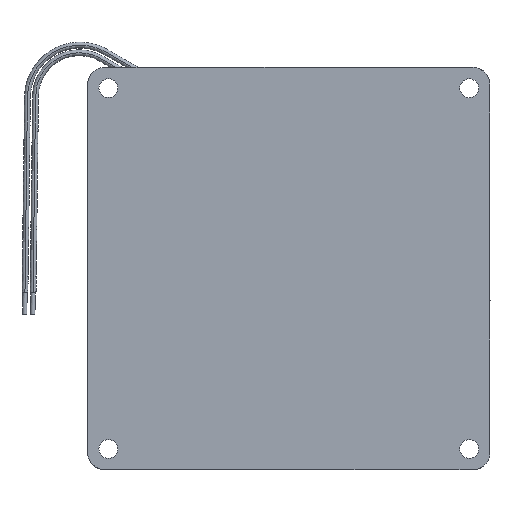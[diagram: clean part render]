
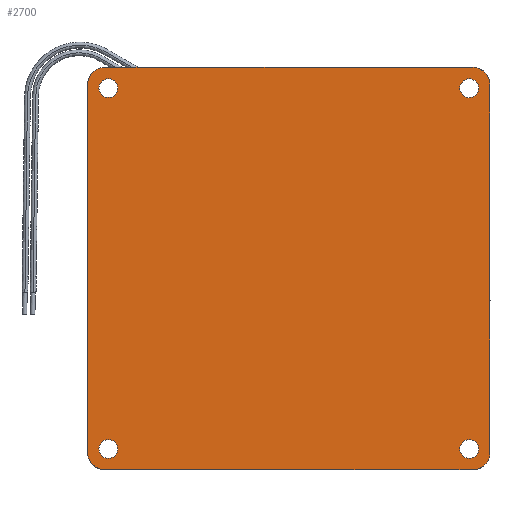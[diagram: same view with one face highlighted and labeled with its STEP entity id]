
A CAD part, front view. The second image highlights one B-rep face of the part: STEP entity #2700.
In plain terms, the highlighted planar face has unit normal (0, -1, 0).
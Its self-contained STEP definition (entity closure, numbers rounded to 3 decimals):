
#6 = CARTESIAN_POINT ( 'NONE',  ( 126.719, 0., 283.392 ) ) ;
#151 = AXIS2_PLACEMENT_3D ( 'NONE', #2578, #4625, #5047 ) ;
#196 = CARTESIAN_POINT ( 'NONE',  ( 214.719, 0., 191.392 ) ) ;
#221 = ORIENTED_EDGE ( 'NONE', *, *, #5051, .T. ) ;
#269 = DIRECTION ( 'NONE',  ( 0., 1., 0. ) ) ;
#291 = DIRECTION ( 'NONE',  ( 0., -1., 0. ) ) ;
#528 = DIRECTION ( 'NONE',  ( 0., 1., 0. ) ) ;
#584 = EDGE_CURVE ( 'NONE', #4635, #2372, #3567, .T. ) ;
#678 = CARTESIAN_POINT ( 'NONE',  ( 126.719, 0., 191.392 ) ) ;
#688 = CARTESIAN_POINT ( 'NONE',  ( 209.969, 0., 276.492 ) ) ;
#723 = ORIENTED_EDGE ( 'NONE', *, *, #771, .T. ) ;
#734 = CARTESIAN_POINT ( 'NONE',  ( 127.469, 0., 278.642 ) ) ;
#735 = EDGE_LOOP ( 'NONE', ( #723, #5592 ) ) ;
#769 = VERTEX_POINT ( 'NONE', #4316 ) ;
#771 = EDGE_CURVE ( 'NONE', #790, #5350, #3051, .T. ) ;
#790 = VERTEX_POINT ( 'NONE', #5823 ) ;
#853 = CARTESIAN_POINT ( 'NONE',  ( 127.469, 0., 276.492 ) ) ;
#966 = ORIENTED_EDGE ( 'NONE', *, *, #4829, .T. ) ;
#1167 = DIRECTION ( 'NONE',  ( 0., -1., 0. ) ) ;
#1173 = VERTEX_POINT ( 'NONE', #5498 ) ;
#1370 = ORIENTED_EDGE ( 'NONE', *, *, #5869, .F. ) ;
#1403 = DIRECTION ( 'NONE',  ( 0., 1., 0. ) ) ;
#1432 = AXIS2_PLACEMENT_3D ( 'NONE', #734, #2744, #4076 ) ;
#1514 = DIRECTION ( 'NONE',  ( 0., 0., 1. ) ) ;
#1540 = EDGE_CURVE ( 'NONE', #2576, #1173, #2657, .T. ) ;
#1640 = CIRCLE ( 'NONE', #5291, 2.15 ) ;
#1672 = EDGE_LOOP ( 'NONE', ( #3787, #3312, #2680 ) ) ;
#1676 = CARTESIAN_POINT ( 'NONE',  ( 168.719, 0., 191.392 ) ) ;
#1726 = AXIS2_PLACEMENT_3D ( 'NONE', #2612, #1167, #4596 ) ;
#1783 = EDGE_LOOP ( 'NONE', ( #966, #221 ) ) ;
#1809 = CARTESIAN_POINT ( 'NONE',  ( 127.469, 0., 196.142 ) ) ;
#1850 = CIRCLE ( 'NONE', #1952, 2.15 ) ;
#1865 = CARTESIAN_POINT ( 'NONE',  ( 209.969, 0., 278.642 ) ) ;
#1894 = FACE_BOUND ( 'NONE', #735, .T. ) ;
#1952 = AXIS2_PLACEMENT_3D ( 'NONE', #4438, #5445, #5541 ) ;
#2069 = VERTEX_POINT ( 'NONE', #5229 ) ;
#2202 = CARTESIAN_POINT ( 'NONE',  ( 214.719, 0., 195.392 ) ) ;
#2273 = DIRECTION ( 'NONE',  ( 0., 0., 1. ) ) ;
#2372 = VERTEX_POINT ( 'NONE', #853 ) ;
#2509 = EDGE_CURVE ( 'NONE', #4148, #2069, #4017, .T. ) ;
#2524 = CARTESIAN_POINT ( 'NONE',  ( 122.719, 0., 283.392 ) ) ;
#2558 =( BOUNDED_CURVE ( )  B_SPLINE_CURVE ( 2, ( #4476, #5084, #6, #2524, #6111 ),
 .UNSPECIFIED., .F., .F. ) 
 B_SPLINE_CURVE_WITH_KNOTS ( ( 3, 2, 3 ),
 ( 0., 0.008, 0.014 ),
 .UNSPECIFIED. ) 
 CURVE ( )  GEOMETRIC_REPRESENTATION_ITEM ( )  RATIONAL_B_SPLINE_CURVE ( ( 1., 1., 1., 0.707, 1. ) ) 
 REPRESENTATION_ITEM ( '' )  );
#2576 = VERTEX_POINT ( 'NONE', #6279 ) ;
#2578 = CARTESIAN_POINT ( 'NONE',  ( 209.969, 0., 278.642 ) ) ;
#2584 = CARTESIAN_POINT ( 'NONE',  ( 209.969, 0., 193.992 ) ) ;
#2612 = CARTESIAN_POINT ( 'NONE',  ( 209.969, 0., 196.142 ) ) ;
#2657 = LINE ( 'NONE', #5427, #4754 ) ;
#2680 = ORIENTED_EDGE ( 'NONE', *, *, #4013, .T. ) ;
#2687 = CARTESIAN_POINT ( 'NONE',  ( 210.719, 0., 191.392 ) ) ;
#2700 = ADVANCED_FACE ( 'NONE', ( #5221, #2847, #6339, #1894, #4341 ), #6246, .T. ) ;
#2744 = DIRECTION ( 'NONE',  ( 0., 1., 0. ) ) ;
#2745 = EDGE_LOOP ( 'NONE', ( #4515, #5335 ) ) ;
#2784 = AXIS2_PLACEMENT_3D ( 'NONE', #1865, #1403, #5385 ) ;
#2838 = CARTESIAN_POINT ( 'NONE',  ( 127.469, 0., 193.992 ) ) ;
#2847 = FACE_BOUND ( 'NONE', #2745, .T. ) ;
#2875 = AXIS2_PLACEMENT_3D ( 'NONE', #5752, #3882, #5318 ) ;
#3051 = CIRCLE ( 'NONE', #3564, 2.15 ) ;
#3265 = AXIS2_PLACEMENT_3D ( 'NONE', #3345, #528, #1514 ) ;
#3293 = DIRECTION ( 'NONE',  ( 0., 0., -1. ) ) ;
#3312 = ORIENTED_EDGE ( 'NONE', *, *, #4203, .T. ) ;
#3345 = CARTESIAN_POINT ( 'NONE',  ( 127.469, 0., 278.642 ) ) ;
#3523 = VERTEX_POINT ( 'NONE', #688 ) ;
#3564 = AXIS2_PLACEMENT_3D ( 'NONE', #1809, #269, #2273 ) ;
#3567 = CIRCLE ( 'NONE', #3265, 2.15 ) ;
#3663 = CARTESIAN_POINT ( 'NONE',  ( 122.719, 0., 237.392 ) ) ;
#3787 = ORIENTED_EDGE ( 'NONE', *, *, #1540, .T. ) ;
#3849 = VERTEX_POINT ( 'NONE', #5196 ) ;
#3882 = DIRECTION ( 'NONE',  ( 0., -1., 0. ) ) ;
#4013 = EDGE_CURVE ( 'NONE', #769, #2576, #6120, .T. ) ;
#4017 = CIRCLE ( 'NONE', #1726, 2.15 ) ;
#4076 = DIRECTION ( 'NONE',  ( 0., 0., 1. ) ) ;
#4148 = VERTEX_POINT ( 'NONE', #2584 ) ;
#4154 = CARTESIAN_POINT ( 'NONE',  ( 122.719, 0., 279.392 ) ) ;
#4184 = CARTESIAN_POINT ( 'NONE',  ( 122.719, 0., 191.392 ) ) ;
#4203 = EDGE_CURVE ( 'NONE', #1173, #769, #2558, .T. ) ;
#4231 = CIRCLE ( 'NONE', #2784, 2.15 ) ;
#4288 = DIRECTION ( 'NONE',  ( -1., 0., 0. ) ) ;
#4315 = CARTESIAN_POINT ( 'NONE',  ( 136.214, 0., 283.392 ) ) ;
#4316 = CARTESIAN_POINT ( 'NONE',  ( 122.719, 0., 279.392 ) ) ;
#4341 = FACE_OUTER_BOUND ( 'NONE', #1672, .T. ) ;
#4438 = CARTESIAN_POINT ( 'NONE',  ( 127.469, 0., 196.142 ) ) ;
#4476 = CARTESIAN_POINT ( 'NONE',  ( 134.714, 0., 283.392 ) ) ;
#4515 = ORIENTED_EDGE ( 'NONE', *, *, #584, .T. ) ;
#4596 = DIRECTION ( 'NONE',  ( 0., 0., -1. ) ) ;
#4625 = DIRECTION ( 'NONE',  ( 0., 1., 0. ) ) ;
#4635 = VERTEX_POINT ( 'NONE', #5720 ) ;
#4737 = CIRCLE ( 'NONE', #151, 2.15 ) ;
#4754 = VECTOR ( 'NONE', #4288, 1000. ) ;
#4760 = CARTESIAN_POINT ( 'NONE',  ( 209.969, 0., 196.142 ) ) ;
#4829 = EDGE_CURVE ( 'NONE', #3849, #3523, #4231, .T. ) ;
#4927 = CARTESIAN_POINT ( 'NONE',  ( 210.719, 0., 283.392 ) ) ;
#5047 = DIRECTION ( 'NONE',  ( 0., 0., 1. ) ) ;
#5051 = EDGE_CURVE ( 'NONE', #3523, #3849, #4737, .T. ) ;
#5084 = CARTESIAN_POINT ( 'NONE',  ( 130.717, 0., 283.392 ) ) ;
#5121 = EDGE_LOOP ( 'NONE', ( #5738, #1370 ) ) ;
#5196 = CARTESIAN_POINT ( 'NONE',  ( 209.969, 0., 280.792 ) ) ;
#5221 = FACE_BOUND ( 'NONE', #1783, .T. ) ;
#5229 = CARTESIAN_POINT ( 'NONE',  ( 209.969, 0., 198.292 ) ) ;
#5291 = AXIS2_PLACEMENT_3D ( 'NONE', #4760, #291, #3293 ) ;
#5318 = DIRECTION ( 'NONE',  ( 0., 0., -1. ) ) ;
#5335 = ORIENTED_EDGE ( 'NONE', *, *, #5681, .T. ) ;
#5350 = VERTEX_POINT ( 'NONE', #2838 ) ;
#5355 = CARTESIAN_POINT ( 'NONE',  ( 214.719, 0., 279.392 ) ) ;
#5385 = DIRECTION ( 'NONE',  ( 0., 0., 1. ) ) ;
#5427 = CARTESIAN_POINT ( 'NONE',  ( 134.714, 0., 283.392 ) ) ;
#5445 = DIRECTION ( 'NONE',  ( 0., 1., 0. ) ) ;
#5498 = CARTESIAN_POINT ( 'NONE',  ( 134.714, 0., 283.392 ) ) ;
#5541 = DIRECTION ( 'NONE',  ( 0., 0., 1. ) ) ;
#5592 = ORIENTED_EDGE ( 'NONE', *, *, #6049, .T. ) ;
#5681 = EDGE_CURVE ( 'NONE', #2372, #4635, #6237, .T. ) ;
#5720 = CARTESIAN_POINT ( 'NONE',  ( 127.469, 0., 280.792 ) ) ;
#5738 = ORIENTED_EDGE ( 'NONE', *, *, #2509, .F. ) ;
#5752 = CARTESIAN_POINT ( 'NONE',  ( 122.719, 0., 191.392 ) ) ;
#5823 = CARTESIAN_POINT ( 'NONE',  ( 127.469, 0., 198.292 ) ) ;
#5852 = CARTESIAN_POINT ( 'NONE',  ( 173.467, 0., 283.392 ) ) ;
#5869 = EDGE_CURVE ( 'NONE', #2069, #4148, #1640, .T. ) ;
#5924 = CARTESIAN_POINT ( 'NONE',  ( 214.719, 0., 283.392 ) ) ;
#6049 = EDGE_CURVE ( 'NONE', #5350, #790, #1850, .T. ) ;
#6111 = CARTESIAN_POINT ( 'NONE',  ( 122.719, 0., 279.392 ) ) ;
#6120 =( BOUNDED_CURVE ( )  B_SPLINE_CURVE ( 2, ( #4154, #3663, #6153, #4184, #678, #1676, #2687, #196, #2202, #6184, #5355, #5924, #4927, #5852, #4315 ),
 .UNSPECIFIED., .F., .T. ) 
 B_SPLINE_CURVE_WITH_KNOTS ( ( 3, 2, 2, 2, 2, 2, 2, 3 ),
 ( 0., 0.083, 0.09, 0.173, 0.179, 0.263, 0.269, 0.343 ),
 .UNSPECIFIED. ) 
 CURVE ( )  GEOMETRIC_REPRESENTATION_ITEM ( )  RATIONAL_B_SPLINE_CURVE ( ( 1., 1., 1., 0.707, 1., 1., 1., 0.707, 1., 1., 1., 0.707, 1., 1., 1. ) ) 
 REPRESENTATION_ITEM ( '' )  );
#6153 = CARTESIAN_POINT ( 'NONE',  ( 122.719, 0., 195.392 ) ) ;
#6184 = CARTESIAN_POINT ( 'NONE',  ( 214.719, 0., 237.392 ) ) ;
#6237 = CIRCLE ( 'NONE', #1432, 2.15 ) ;
#6246 = PLANE ( 'NONE',  #2875 ) ;
#6279 = CARTESIAN_POINT ( 'NONE',  ( 136.214, 0., 283.392 ) ) ;
#6339 = FACE_BOUND ( 'NONE', #5121, .T. ) ;
